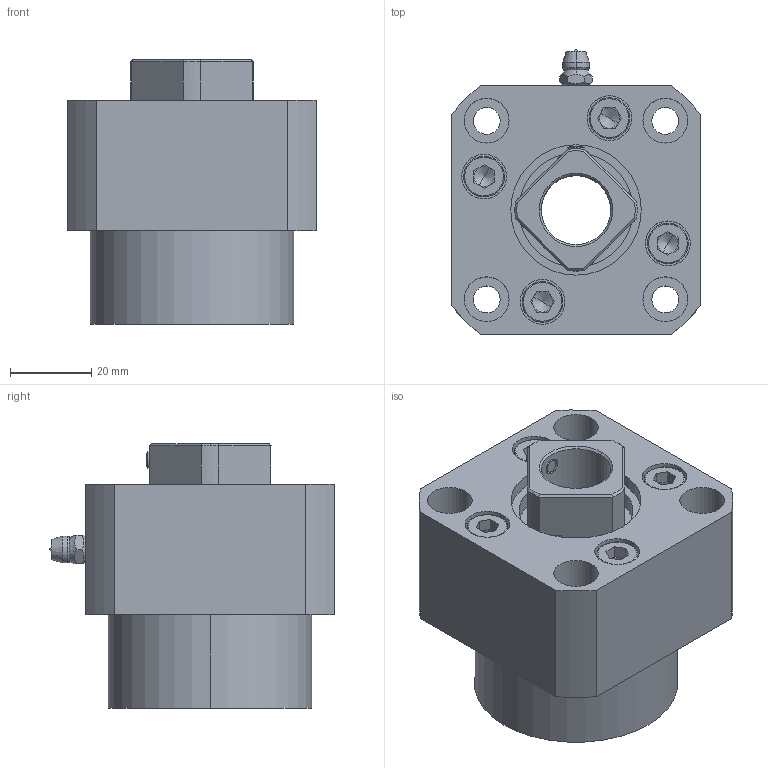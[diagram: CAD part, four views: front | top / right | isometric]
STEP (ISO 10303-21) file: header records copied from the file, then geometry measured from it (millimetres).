
FILE_DESCRIPTION (( 'STEP AP203' ), '1' );
FILE_NAME ('FK17G.STEP', '2018-09-15T03:15:05', ( '' ), ( '' ), 'SwSTEP 2.0', 'SolidWorks 2015', '' );
FILE_SCHEMA (( 'CONFIG_CONTROL_DESIGN' ));
Length unit declared in the file: millimetre
Products named in the file (1): FK17G
Bounding box: 61 x 69.9 x 65 mm (x, y, z)
Volume: 132342.2 mm3; surface area: 40805.6 mm2
Topology: 1 solids, 15 shells, 390 faces, 893 edges, 543 vertices
Faces by surface type: cylinder 136, plane 132, cone 67, torus 48, bspline 7
Entity records: 11343 total; most frequent: CARTESIAN_POINT 2289, DIRECTION 2047, ORIENTED_EDGE 1746, EDGE_CURVE 873, AXIS2_PLACEMENT_3D 847, VERTEX_POINT 543, CIRCLE 463, EDGE_LOOP 450
